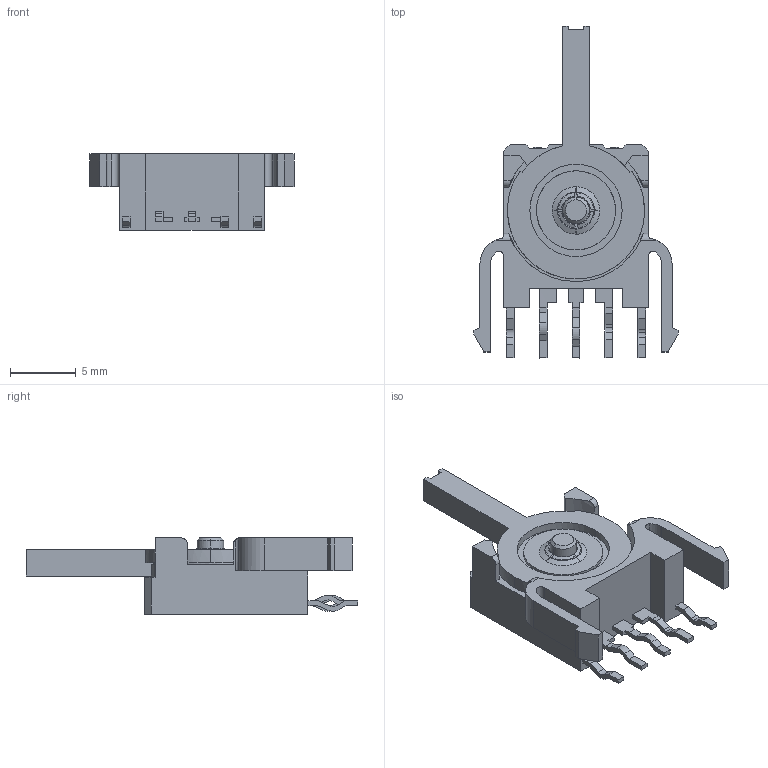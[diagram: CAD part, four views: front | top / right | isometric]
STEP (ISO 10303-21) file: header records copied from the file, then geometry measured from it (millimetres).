
FILE_DESCRIPTION (( 'STEP AP214' ), '1' );
FILE_NAME ('SSCF310100.STEP', '2012-08-05T23:18:07', ( '' ), ( '' ), 'SwSTEP 2.0', 'SolidWorks 2010', '' );
FILE_SCHEMA (( 'AUTOMOTIVE_DESIGN' ));
Length unit declared in the file: millimetre
Products named in the file (1): SSCF310100
Bounding box: 15.5 x 25.2 x 5.8 mm (x, y, z)
Volume: 677 mm3; surface area: 977 mm2
Topology: 1 solids, 1 shells, 266 faces, 729 edges, 479 vertices
Faces by surface type: plane 186, cylinder 63, cone 17
Entity records: 11071 total; most frequent: CARTESIAN_POINT 2792, ORIENTED_EDGE 1458, DIRECTION 1095, EDGE_CURVE 729, VECTOR 487, LINE 487, VERTEX_POINT 479, AXIS2_PLACEMENT_3D 304
